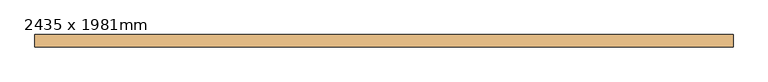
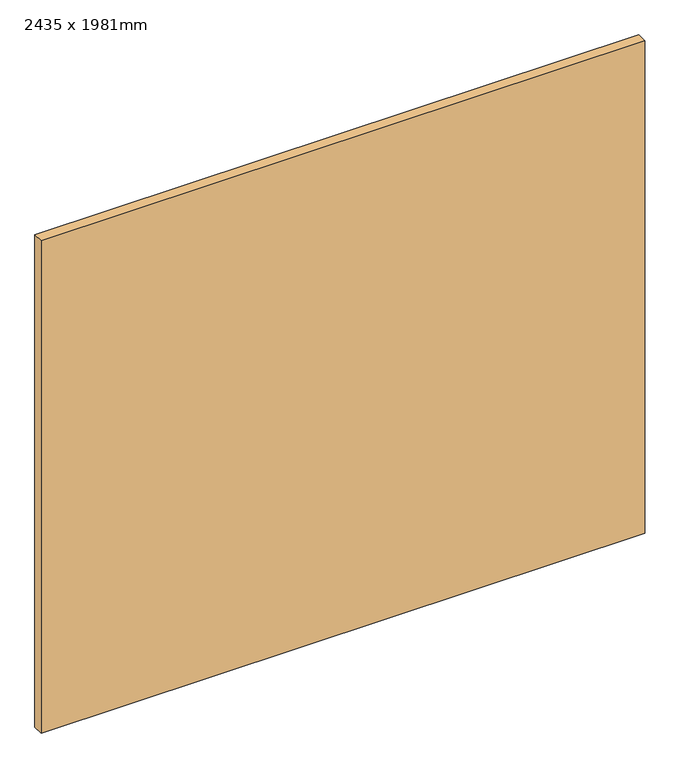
"""IFC4 building model written with IfcOpenShell, lengths in millimetres: door geometry, Puerta elevada articulada : 2435 x 1981mm."""

from ifc_helpers import new_model, si_unit, origin, origin_with_axes, place, context, project, spatial, polyline, outline, extrude, source, transform, mapped, element, save


def door_2435_x_1981mm_4eedffcc(model_context):
    return source(origin(), model_context, "Body", "SweptSolid", [
        extrude(outline(polyline([(1450.0, -182.5), (1450.0, -233.5), (-1450.0, -233.5), (-1450.0, -182.5), (1450.0, -182.5)])), origin_with_axes(), (0.0, 0.0, 1.0), 2500.0),
    ])


if __name__ == "__main__":
    model = new_model("IFC4")
    model_context = context("Model", 3, world=origin())
    ifc_project = project(units=[si_unit("LENGTHUNIT", "METRE", prefix="MILLI")], contexts=[model_context])
    site = spatial("IfcSite", under=ifc_project)
    building = spatial("IfcBuilding", under=site)
    placement = place(None, origin())
    door_2435_x_1981mm_shape = door_2435_x_1981mm_4eedffcc(model_context)
    element("IfcDoor", 1, ObjectType="Puerta elevada articulada : 2435 x 1981mm", at=placement, inside=building, context=model_context, shape_type="MappedRepresentation", body=[
        mapped(door_2435_x_1981mm_shape, transform((0.0, 0.0, 0.0), x_axis=(1.0, 0.0, 0.0), y_axis=(0.0, 1.0, 0.0), z_axis=(0.0, 0.0, 1.0))),
    ])
    save(model, "model.ifc")
